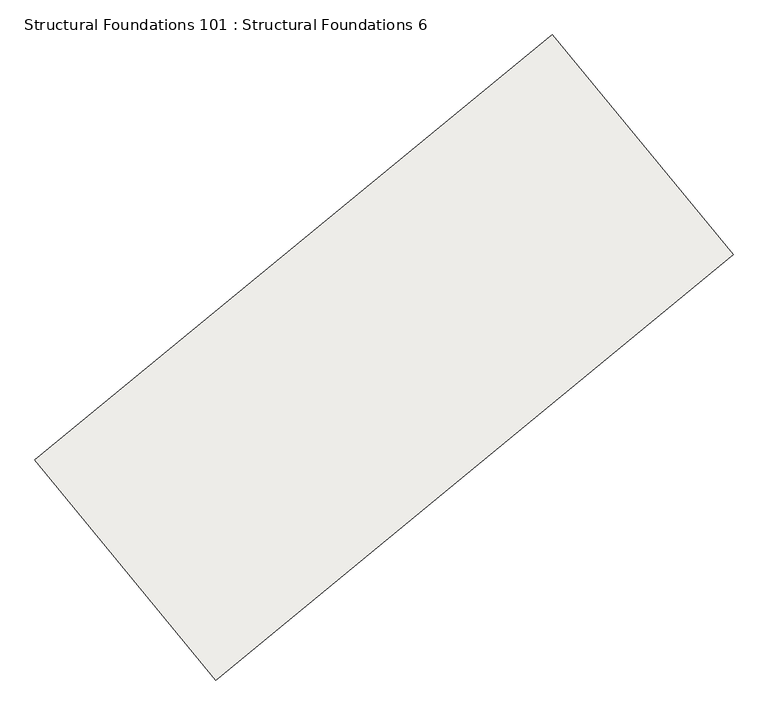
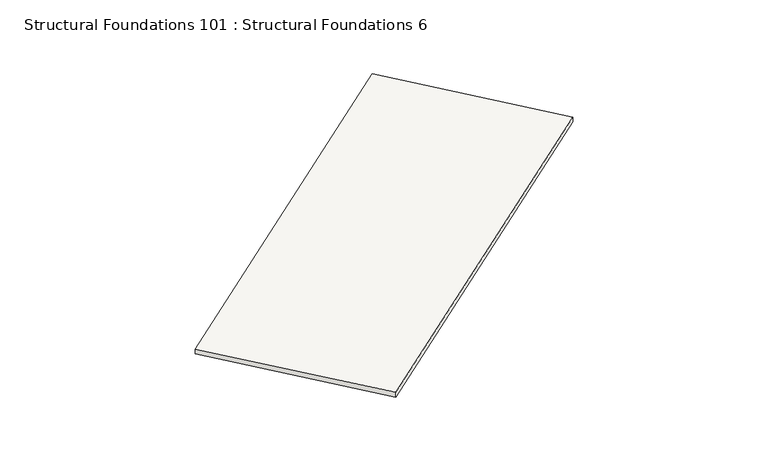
"""IFC4 building model written with IfcOpenShell, lengths in millimetres: slab geometry, Structural Foundations 101 : Structural Foundations 6."""

from ifc_helpers import new_model, si_unit, origin, place, context, project, spatial, faceted_brep, source, transform, mapped, element, save


def structural_foundations_101_structural_foundations_6_f4547e56(model_context):
    return source(origin(), model_context, "Body", "Brep", [
        faceted_brep([(-326652.2433118, -471655.8031811, 633739.9880481), (-326652.2433118, -471655.8031811, 633639.9880481), (-324302.7356288, -474514.0686493, 633639.9880481), (-324302.7356288, -474514.0686493, 633739.9880481), (-319933.796185, -466128.3769757, 633829.9880481), (-317584.2773651, -468986.6559923, 633829.9880481), (-317584.2773651, -468986.6559923, 633729.9880481), (-319933.796185, -466128.3769757, 633729.9880481)], [[[0, 1, 2, 3]], [[4, 5, 6, 7]], [[5, 4, 0, 3]], [[4, 7, 1, 0]], [[7, 6, 2, 1]], [[6, 5, 3, 2]]]),
    ])


if __name__ == "__main__":
    model = new_model("IFC4")
    model_context = context("Model", 3, world=origin())
    ifc_project = project(units=[si_unit("LENGTHUNIT", "METRE", prefix="MILLI")], contexts=[model_context])
    site = spatial("IfcSite", under=ifc_project)
    building = spatial("IfcBuilding", under=site)
    placement = place(None, origin())
    structural_foundations_101_structural_foundations_6_shape = structural_foundations_101_structural_foundations_6_f4547e56(model_context)
    element("IfcSlab", 1, ObjectType="Structural Foundations 101 : Structural Foundations 6", at=placement, inside=building, context=model_context, shape_type="MappedRepresentation", body=[
        mapped(structural_foundations_101_structural_foundations_6_shape, transform((0.0, 0.0, 0.0), x_axis=(1.0, 0.0, 0.0), y_axis=(0.0, 1.0, 0.0), z_axis=(0.0, 0.0, 1.0))),
    ])
    save(model, "model.ifc")
